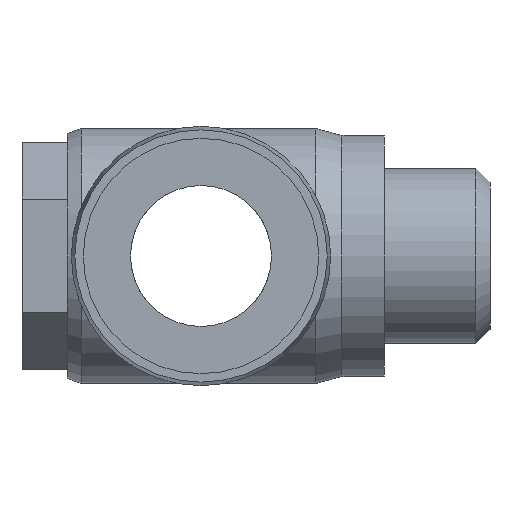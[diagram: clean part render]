
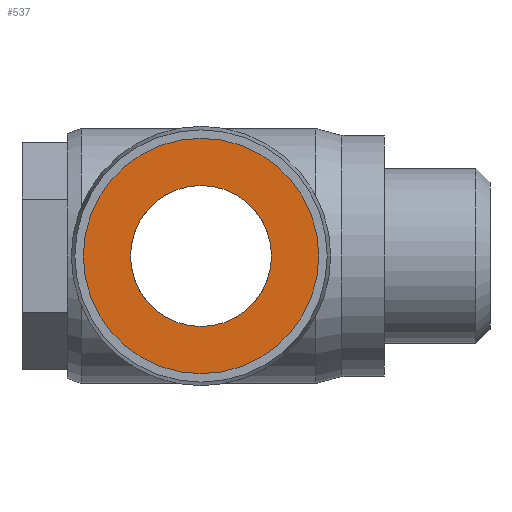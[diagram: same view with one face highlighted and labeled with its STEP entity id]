
A CAD part, left-side view. The second image highlights one B-rep face of the part: STEP entity #537.
In plain terms, the highlighted planar face has unit normal (-1, 0, 0).
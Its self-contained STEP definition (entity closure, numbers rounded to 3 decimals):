
#101=PLANE($,#603);
#135=FACE_BOUND($,#239,.T.);
#136=FACE_BOUND($,#240,.T.);
#239=EDGE_LOOP($,(#476));
#240=EDGE_LOOP($,(#477));
#266=CIRCLE($,#562,5.);
#282=CIRCLE($,#602,8.35);
#299=VERTEX_POINT($,#890);
#329=VERTEX_POINT($,#1046);
#346=EDGE_CURVE($,#299,#299,#266,.T.);
#382=EDGE_CURVE($,#329,#329,#282,.T.);
#476=ORIENTED_EDGE($,*,*,#346,.T.);
#477=ORIENTED_EDGE($,*,*,#382,.T.);
#537=ADVANCED_FACE($,(#135,#136),#101,.T.);
#562=AXIS2_PLACEMENT_3D($,#891,#647,#648);
#602=AXIS2_PLACEMENT_3D($,#1047,#745,#746);
#603=AXIS2_PLACEMENT_3D($,#1048,#747,#748);
#647=DIRECTION('center_axis',(1.,0.,0.));
#648=DIRECTION('ref_axis',(0.,1.,0.));
#745=DIRECTION('center_axis',(-1.,0.,0.));
#746=DIRECTION('ref_axis',(0.,-1.,0.));
#747=DIRECTION('center_axis',(-1.,0.,0.));
#748=DIRECTION('ref_axis',(0.,0.,-1.));
#890=CARTESIAN_POINT('',(-31.5,-5.,0.));
#891=CARTESIAN_POINT('Origin',(-31.5,0.,0.));
#1046=CARTESIAN_POINT('',(-31.5,-8.35,0.));
#1047=CARTESIAN_POINT('Origin',(-31.5,0.,0.));
#1048=CARTESIAN_POINT('Origin',(-31.5,-4.175,0.));
